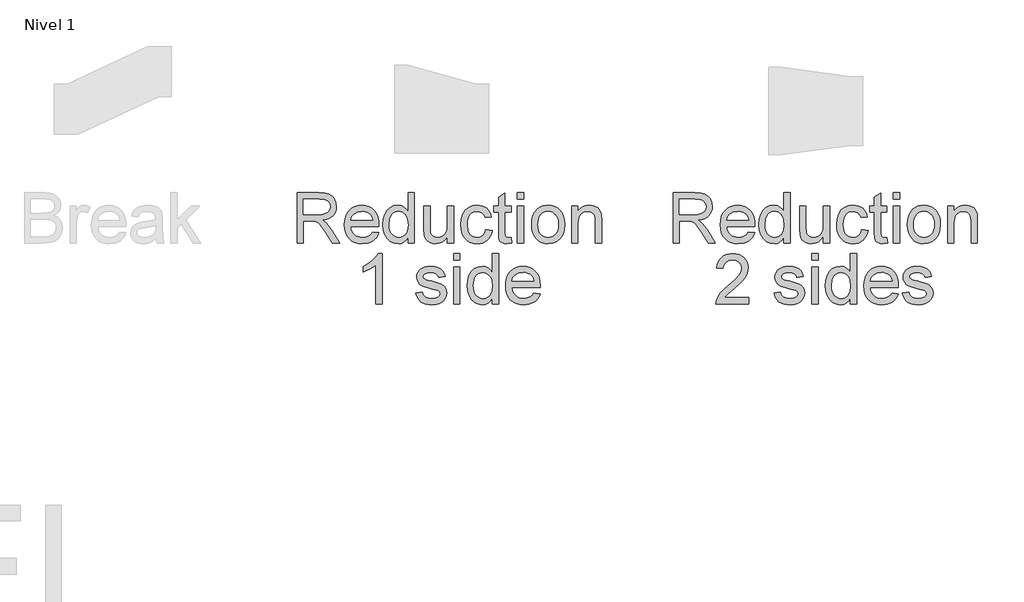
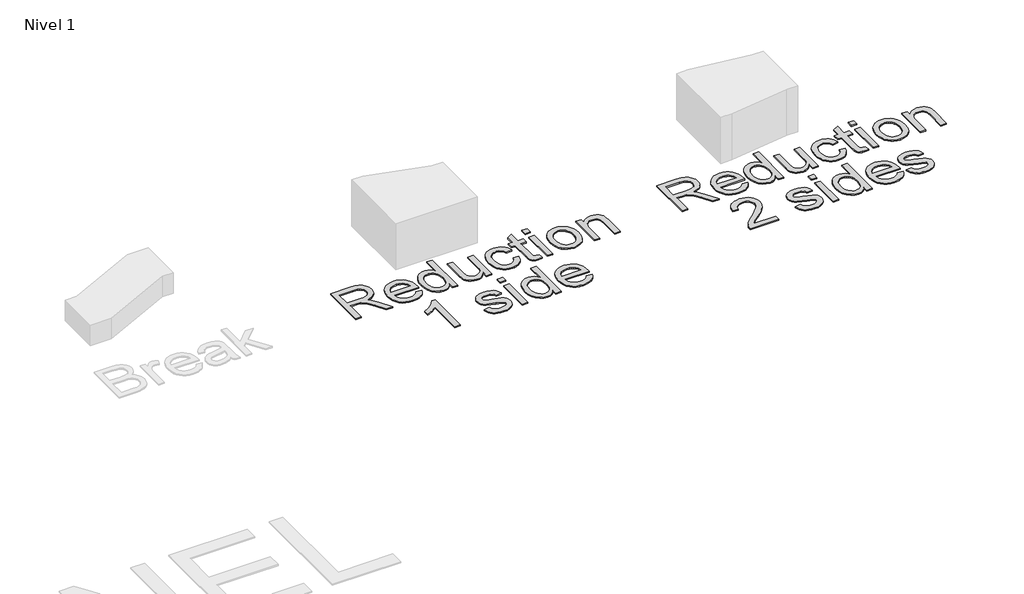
# One storey, part 6 of 7: 2 proxies.
"""IFC4 building model written with IfcOpenShell, lengths in millimetres."""

from ifc_helpers import new_model, si_unit, origin, origin_with_axes, place, context, project, spatial, polyline, outline, extrude, element, save

model = new_model("IFC4")

# Units and contexts
model_context = context("Model", 3, world=origin())
ifc_project = project(units=[si_unit("LENGTHUNIT", "METRE", prefix="MILLI")], contexts=[model_context])

# Site, building, storey
site = spatial("IfcSite", under=ifc_project)
building = spatial("IfcBuilding", under=site)
storey = spatial("IfcBuildingStorey", under=building, Name="Nivel 1", Elevation=0.0)

# Proxies
placement = place(None, origin())
element("IfcBuildingElementProxy", 1, Name="Texto de modelo 1", ObjectType="Texto de modelo 1", at=placement, inside=storey, context=model_context, shape_type="SweptSolid", body=[
    extrude(outline(polyline([(4336.6216122, -4316.3248037), (4336.6216122, -3914.4995631), (4509.7714046, -3914.4995631), (4556.308477, -3917.2096271), (4590.1658833, -3925.3398192), (4614.9120788, -3940.3494046), (4634.115519, -3963.6976486), (4646.4395658, -3992.6499616), (4650.5475814, -4024.4717542), (4648.8461272, -4045.1099341), (4643.7417645, -4064.0558569), (4635.2344934, -4081.3095224), (4623.3243138, -4096.8709308), (4607.8579416, -4110.2434414), (4588.6820926, -4120.9304133), (4565.7967668, -4128.9318467), (4539.2019642, -4134.2477415), (4567.749607, -4155.7320501), (4608.4618812, -4207.4317331), (4675.4654552, -4316.3248037), (4617.0948453, -4316.3248037), (4564.8065511, -4233.03632), (4527.0373329, -4177.9030716), (4512.9965034, -4161.8266285), (4500.5007783, -4151.8570264), (4476.6129741, -4142.2920945), (4447.4767201, -4140.5262609), (4386.8497673, -4140.5262609), (4386.8497673, -4316.3248037), (4336.6216122, -4316.3248037)]), holes=[polyline([(4386.8497673, -4090.2981059), (4499.274505, -4090.2981059), (4531.5622814, -4088.5200095), (4556.6150453, -4083.1857206), (4575.4751289, -4073.9396198), (4589.1848646, -4060.4260878), (4597.5357859, -4044.0798645), (4600.3194263, -4026.3356896), (4595.0096629, -4001.8347488), (4579.0803725, -3982.0917483), (4566.9188069, -3974.4949851), (4551.6731638, -3969.0687257), (4511.9296456, -3964.7277182), (4386.8497673, -3964.7277182), (4386.8497673, -4090.2981059)])]), origin_with_axes(), (0.0, 0.0, 1.0), 10.0),
    extrude(outline(polyline([(4938.7708619, -4228.4255323), (4988.0179983, -4234.7040517), (4980.4672204, -4254.428658), (4970.2738234, -4271.8110823), (4957.4378075, -4286.8513245), (4941.9591725, -4299.5493847), (4923.9973341, -4309.6354827), (4903.7117078, -4316.8398385), (4856.1690912, -4322.6033231), (4825.0033549, -4320.1170539), (4797.2343956, -4312.6582465), (4772.8622134, -4300.2269007), (4751.8868083, -4282.8230167), (4735.0194189, -4260.9309723), (4722.9712835, -4235.0351455), (4715.7424023, -4205.1355363), (4713.3327753, -4171.2321448), (4715.7669278, -4136.179122), (4723.0693854, -4105.2831658), (4735.2401481, -4078.5442761), (4752.2792158, -4055.962453), (4773.1994386, -4038.0220743), (4797.0136664, -4025.2075182), (4823.7218993, -4017.5187845), (4853.3241371, -4014.9558732), (4881.9729475, -4017.5126531), (4907.881037, -4025.1829927), (4931.0484057, -4037.966892), (4951.4750535, -4055.8643511), (4968.1493049, -4078.3971233), (4980.0594845, -4105.0869621), (4987.2055922, -4135.9338674), (4989.5876282, -4170.9378392), (4989.2933226, -4184.4758966), (4763.5609303, -4184.4758966), (4766.4702638, -4204.519334), (4772.2552081, -4222.0734365), (4780.9157634, -4237.1382042), (4792.4519297, -4249.7136371), (4806.2260447, -4259.6280569), (4821.6004464, -4266.7097853), (4857.1501099, -4272.375168), (4883.8828682, -4269.7509431), (4906.3972463, -4261.8782684), (4924.6932442, -4248.2666346), (4938.7708619, -4228.4255323)]), holes=[polyline([(4763.5609303, -4134.2477415), (4939.3594731, -4134.2477415), (4932.5659189, -4107.711187), (4919.2485907, -4088.728476), (4905.5511177, -4078.4277801), (4889.9651839, -4071.0701402), (4872.4907891, -4066.6555563), (4853.1279334, -4065.1840283), (4819.2705271, -4069.8806551), (4791.2747073, -4083.9705355), (4771.8137498, -4105.9330907), (4763.5609303, -4134.2477415)])]), origin_with_axes(), (0.0, 0.0, 1.0), 10.0),
    extrude(outline(polyline([(5221.8928454, -4316.3248037), (5221.8928454, -4268.9416027), (5206.8648659, -4292.4186054), (5188.6608385, -4309.187893), (5167.2807632, -4319.2494656), (5142.72464, -4322.6033231), (5110.2529226, -4317.7472807), (5080.5280574, -4303.1791537), (5055.3649289, -4279.9167489), (5036.5784217, -4248.9778731), (5024.8797742, -4211.6133251), (5020.9802251, -4169.0739038), (5024.5732059, -4127.0617799), (5035.3521484, -4089.1208835), (5053.3047897, -4057.4094555), (5078.4188673, -4034.085737), (5108.7936573, -4019.7383392), (5142.5284363, -4014.9558732), (5167.1029536, -4018.3771758), (5188.8325168, -4028.6410835), (5207.251142, -4044.3741701), (5221.8928454, -4064.2030097), (5221.8928454, -3914.4995631), (5272.1210005, -3914.4995631), (5272.1210005, -4316.3248037), (5221.8928454, -4316.3248037)]), holes=[polyline([(5071.2083802, -4168.8777), (5072.6247258, -4193.2345538), (5076.8737629, -4214.3111264), (5083.9554913, -4232.1074179), (5093.8699111, -4246.6234283), (5118.5670557, -4265.9372331), (5132.4423383, -4270.7656843), (5147.3354277, -4272.375168), (5162.2990278, -4270.8392607), (5176.091537, -4266.2315387), (5200.1632822, -4247.8006507), (5209.6699661, -4233.8916456), (5216.4604546, -4216.7391476), (5221.8928454, -4172.7036728), (5216.3623527, -4124.5601823), (5209.4492369, -4106.0250612), (5199.7708747, -4091.1810226), (5188.0691616, -4079.8073376), (5175.0859929, -4071.6832769), (5160.8213685, -4066.8088405), (5145.2752885, -4065.1840283), (5130.0878935, -4066.7444611), (5116.2126109, -4071.4257595), (5103.6494408, -4079.2279235), (5092.3983831, -4090.1509531), (5083.1277568, -4104.4339715), (5076.5058809, -4122.3161022), (5071.2083802, -4168.8777)])]), origin_with_axes(), (0.0, 0.0, 1.0), 10.0),
    extrude(outline(polyline([(5535.8188146, -4316.3248037), (5535.8188146, -4265.6061393), (5517.645444, -4290.5424072), (5496.4799666, -4308.3540271), (5472.3223822, -4319.0409991), (5445.172691, -4322.6033231), (5420.7085383, -4320.1017255), (5397.9366428, -4312.5969328), (5378.8313045, -4301.3152183), (5365.3668235, -4287.4828553), (5356.3046637, -4270.6829108), (5350.406289, -4250.498452), (5347.4632331, -4203.8019641), (5347.4632331, -4021.2343926), (5397.6913881, -4021.2343926), (5397.6913881, -4180.1594145), (5400.732546, -4231.3685883), (5408.0533977, -4248.4505756), (5420.5981737, -4261.43681), (5437.5330082, -4269.6405785), (5458.0240354, -4272.375168), (5479.6922849, -4269.5792648), (5499.9625828, -4261.1915554), (5516.6766881, -4247.9845917), (5527.6763598, -4230.7309262), (5533.7832009, -4207.1006393), (5535.8188146, -4174.763812), (5535.8188146, -4021.2343926), (5586.0469697, -4021.2343926), (5586.0469697, -4316.3248037), (5535.8188146, -4316.3248037)])), origin_with_axes(), (0.0, 0.0, 1.0), 10.0),
    extrude(outline(polyline([(5843.4662644, -4209.5899742), (5893.6944195, -4215.8684935), (5888.2313719, -4239.5692911), (5879.6903782, -4260.5416305), (5868.0714385, -4278.7855118), (5853.3745528, -4294.3009349), (5836.2189891, -4306.6832297), (5817.2240154, -4315.527726), (5796.3896318, -4320.8344238), (5773.7158381, -4322.6033231), (5745.5452744, -4320.135448), (5720.2871097, -4312.7318229), (5697.9413442, -4300.3924476), (5678.5079778, -4283.1173223), (5662.7779568, -4261.2314092), (5651.5422276, -4235.059671), (5644.80079, -4204.6021074), (5642.5536441, -4169.8587187), (5646.3918796, -4125.1610563), (5657.9065861, -4086.4230822), (5677.2817045, -4055.1408499), (5704.7011759, -4032.8104127), (5737.5039871, -4019.4195081), (5773.0291251, -4014.9558732), (5795.3135769, -4016.4887149), (5815.4704446, -4021.0872398), (5833.499728, -4028.7514481), (5849.4014273, -4039.4813396), (5862.9057622, -4053.0316597), (5873.7429526, -4069.1571539), (5881.9129986, -4087.857822), (5887.4159001, -4109.133664), (5837.1877451, -4115.4121834), (5828.0765343, -4093.4986792), (5813.888552, -4077.790118), (5795.4086131, -4068.3355507), (5773.4215326, -4065.1840283), (5756.3548737, -4066.7352641), (5740.9620778, -4071.3889713), (5727.2431451, -4079.14515), (5715.1980754, -4090.0038003), (5705.3909546, -4104.216308), (5698.3858683, -4122.0340593), (5694.1828165, -4143.4570542), (5692.7817992, -4168.4852926), (5698.2632409, -4215.5619252), (5705.1150431, -4233.4992382), (5714.7075661, -4247.7025489), (5726.5135125, -4258.4968197), (5740.0055847, -4266.2070132), (5755.1837826, -4270.8331293), (5772.0481064, -4272.375168), (5798.0573635, -4268.5246698), (5819.3822565, -4256.9731751), (5834.8946139, -4237.4263785), (5843.4662644, -4209.5899742)])), origin_with_axes(), (0.0, 0.0, 1.0), 10.0),
    extrude(outline(polyline([(6044.3788847, -4274.4353072), (6050.6574041, -4317.7963317), (6013.0843897, -4322.6033231), (5988.9758563, -4320.5186584), (5970.9986894, -4314.2646645), (5958.2944979, -4304.6261562), (5950.0048902, -4292.3879485), (5945.4431535, -4271.3696239), (5943.9225746, -4235.3907648), (5943.9225746, -4071.4625477), (5906.2514583, -4071.4625477), (5906.2514583, -4021.2343926), (5943.9225746, -4021.2343926), (5943.9225746, -3949.521929), (5994.1507297, -3919.9932676), (5994.1507297, -4021.2343926), (6044.3788847, -4021.2343926), (6044.3788847, -4071.4625477), (5994.1507297, -4071.4625477), (5994.1507297, -4233.9192368), (5996.79948, -4259.8181292), (6005.3833932, -4268.9906536), (6022.5021688, -4272.375168), (6044.3788847, -4274.4353072)])), origin_with_axes(), (0.0, 0.0, 1.0), 10.0),
    extrude(outline(polyline([(6094.6070398, -3964.7277182), (6094.6070398, -3914.4995631), (6144.8351949, -3914.4995631), (6144.8351949, -3964.7277182), (6094.6070398, -3964.7277182)])), origin_with_axes(), (0.0, 0.0, 1.0), 10.0),
    extrude(outline(polyline([(6094.6070398, -4316.3248037), (6094.6070398, -4021.2343926), (6144.8351949, -4021.2343926), (6144.8351949, -4316.3248037), (6094.6070398, -4316.3248037)])), origin_with_axes(), (0.0, 0.0, 1.0), 10.0),
    extrude(outline(polyline([(6207.6203887, -4168.7795982), (6210.3365841, -4130.5627902), (6218.4851703, -4097.6312203), (6232.0661473, -4069.9848884), (6251.0795151, -4047.6237944), (6270.2216416, -4033.3315789), (6291.3503308, -4023.1228535), (6314.4655829, -4016.9976183), (6339.5673977, -4014.9558732), (6367.278109, -4017.4421424), (6392.3339385, -4024.9009498), (6414.7348863, -4037.3322956), (6434.4809524, -4054.7361797), (6450.5972495, -4076.5239908), (6462.1088903, -4102.1071179), (6469.0158747, -4131.4855609), (6471.3182029, -4164.6593198), (6467.2469755, -4215.4025097), (6455.0332932, -4254.0301192), (6435.0327754, -4282.9579067), (6407.6010413, -4304.6016308), (6375.0189593, -4318.1029), (6339.5673977, -4322.6033231), (6311.4520162, -4320.126251), (6286.1631947, -4312.6950347), (6263.7009332, -4300.3096742), (6244.0652317, -4282.9701695), (6228.1206129, -4260.9708262), (6216.7315995, -4234.6059498), (6209.8981914, -4203.8755405), (6207.6203887, -4168.7795982)]), holes=[polyline([(6257.8485438, -4168.6814963), (6259.3016777, -4193.0444814), (6263.6610793, -4214.1394482), (6270.9267487, -4231.9663965), (6281.0986859, -4246.5253265), (6293.4717837, -4257.8346321), (6307.3409349, -4265.9127076), (6322.7061396, -4270.7595529), (6339.5673977, -4272.375168), (6356.3428166, -4270.7503559), (6371.6467076, -4265.8759194), (6385.4790707, -4257.7518587), (6397.8399057, -4246.3781737), (6408.0118429, -4231.6751566), (6415.2775123, -4213.5630997), (6419.6369139, -4192.042003), (6421.0900478, -4167.1118665), (6419.6277169, -4143.5214335), (6415.2407241, -4122.9782898), (6407.9290694, -4105.4824352), (6397.6927529, -4091.0338698), (6385.2859326, -4079.7245642), (6371.4627666, -4071.6464887), (6356.223255, -4066.7996434), (6339.5673977, -4065.1840283), (6322.7061396, -4066.793512), (6307.3409349, -4071.6219632), (6293.4717837, -4079.6693819), (6281.0986859, -4090.935768), (6270.9267487, -4105.4517784), (6263.6610793, -4123.2480699), (6259.3016777, -4144.3246425), (6257.8485438, -4168.6814963)])]), origin_with_axes(), (0.0, 0.0, 1.0), 10.0),
    extrude(outline(polyline([(6527.8248773, -4316.3248037), (6527.8248773, -4021.2343926), (6578.0530324, -4021.2343926), (6578.0530324, -4062.4371761), (6595.5029017, -4041.6641061), (6616.4599127, -4026.826199), (6640.9240654, -4017.9234547), (6668.8953597, -4014.9558732), (6693.653818, -4017.3471062), (6716.3276117, -4024.5208051), (6735.2367462, -4035.5817904), (6748.7012272, -4049.6348827), (6757.8369634, -4066.6432936), (6763.7598636, -4086.570235), (6766.4086139, -4135.1306583), (6766.4086139, -4316.3248037), (6716.1804589, -4316.3248037), (6716.1804589, -4141.899687), (6714.7334563, -4115.9272182), (6710.3924488, -4097.459542), (6702.384884, -4084.2280529), (6689.9382099, -4073.9641453), (6673.984394, -4067.3790576), (6655.4554042, -4065.1840283), (6626.0371073, -4070.1136471), (6600.959818, -4084.9025033), (6590.9380993, -4096.9751641), (6583.7797288, -4113.4746716), (6579.4847065, -4134.4010257), (6578.0530324, -4159.7542265), (6578.0530324, -4316.3248037), (6527.8248773, -4316.3248037)])), origin_with_axes(), (0.0, 0.0, 1.0), 10.0),
    extrude(outline(polyline([(5014.7017057, -4804.2240751), (4964.4735506, -4804.2240751), (4964.4735506, -4491.0829208), (4943.5042769, -4508.0422808), (4916.8941459, -4524.9771153), (4864.0172405, -4550.3364475), (4864.0172405, -4502.8551446), (4903.4664531, -4481.3953616), (4937.6426904, -4455.8643511), (4964.5839152, -4428.7146599), (4982.3280901, -4402.3988345), (5014.7017057, -4402.3988345), (5014.7017057, -4804.2240751)])), origin_with_axes(), (0.0, 0.0, 1.0), 10.0),
    extrude(outline(polyline([(5284.6780392, -4716.3248037), (5334.9061943, -4710.0462843), (5342.8279199, -4731.5305928), (5358.1563364, -4747.3249932), (5380.9895456, -4757.0370778), (5411.4256493, -4760.2744394), (5441.493871, -4757.306858), (5462.634823, -4748.4041137), (5475.1428109, -4735.5037184), (5479.3121401, -4720.5431839), (5475.1182854, -4707.7408905), (5462.5367212, -4697.9797549), (5410.8370381, -4683.6568825), (5335.2004999, -4659.0823652), (5316.0583734, -4646.7337929), (5302.1892222, -4630.3875696), (5293.7647245, -4611.0860276), (5290.9565586, -4589.8714992), (5293.2129015, -4570.4105417), (5299.9819302, -4552.4456376), (5310.6505081, -4536.6880254), (5324.6054984, -4523.8489438), (5356.5376556, -4508.9865112), (5377.4210902, -4504.3879863), (5399.7515273, -4502.8551446), (5432.443974, -4505.319954), (5460.8689895, -4512.7143821), (5483.7267241, -4524.3149277), (5499.7173281, -4539.3980895), (5510.3123296, -4559.0797762), (5516.9832564, -4584.4758966), (5466.7551014, -4590.754416), (5460.4152683, -4574.9477529), (5447.8704923, -4563.040639), (5428.9981459, -4555.5726345), (5403.6756019, -4553.0832997), (5374.8336535, -4555.4622699), (5355.6056879, -4562.5991806), (5344.7899572, -4572.8998765), (5341.1847137, -4584.7702022), (5347.1689275, -4599.3873802), (5365.9063838, -4610.4728909), (5409.1693064, -4621.1659943), (5482.8928582, -4644.8085438), (5502.3660785, -4656.1147838), (5517.1304092, -4671.5903531), (5526.4378237, -4691.2843026), (5529.5402952, -4715.2456832), (5525.8982635, -4740.0164042), (5514.9721682, -4763.3155972), (5497.1789424, -4783.316115), (5472.9355189, -4798.1908104), (5443.6521121, -4807.4246484), (5410.7389362, -4810.5025945), (5383.705741, -4809.0188037), (5360.0938482, -4804.5674316), (5339.9032581, -4797.148478), (5323.1339705, -4786.761943), (5309.4364975, -4773.4568775), (5298.4613513, -4757.2823325), (5290.2085319, -4738.2383079), (5284.6780392, -4716.3248037)])), origin_with_axes(), (0.0, 0.0, 1.0), 10.0),
    extrude(outline(polyline([(5586.0469697, -4452.6269896), (5586.0469697, -4402.3988345), (5636.2751248, -4402.3988345), (5636.2751248, -4452.6269896), (5586.0469697, -4452.6269896)])), origin_with_axes(), (0.0, 0.0, 1.0), 10.0),
    extrude(outline(polyline([(5586.0469697, -4804.2240751), (5586.0469697, -4509.133664), (5636.2751248, -4509.133664), (5636.2751248, -4804.2240751), (5586.0469697, -4804.2240751)])), origin_with_axes(), (0.0, 0.0, 1.0), 10.0),
    extrude(outline(polyline([(5893.6944195, -4804.2240751), (5893.6944195, -4756.8408741), (5878.66644, -4780.3178768), (5860.4624126, -4797.0871644), (5839.0823373, -4807.1487369), (5814.5262141, -4810.5025945), (5782.0544967, -4805.6465521), (5752.3296315, -4791.0784251), (5727.166503, -4767.8160203), (5708.3799958, -4736.8771445), (5696.6813484, -4699.5125965), (5692.7817992, -4656.9731751), (5696.37478, -4614.9610513), (5707.1537225, -4577.0201549), (5725.1063639, -4545.3087269), (5750.2204414, -4521.9850084), (5780.5952315, -4507.6376106), (5814.3300104, -4502.8551446), (5838.9045277, -4506.2764472), (5860.6340909, -4516.5403548), (5879.0527161, -4532.2734415), (5893.6944195, -4552.102281), (5893.6944195, -4402.3988345), (5943.9225746, -4402.3988345), (5943.9225746, -4804.2240751), (5893.6944195, -4804.2240751)]), holes=[polyline([(5743.0099543, -4656.7769714), (5744.4263, -4681.1338252), (5748.675337, -4702.2103978), (5755.7570654, -4720.0066893), (5765.6714852, -4734.5226997), (5790.3686298, -4753.8365045), (5804.2439124, -4758.6649557), (5819.1370018, -4760.2744394), (5834.100602, -4758.7385321), (5847.8931111, -4754.1308101), (5871.9648563, -4735.6999221), (5881.4715402, -4721.790917), (5888.2620287, -4704.638419), (5893.6944195, -4660.6029442), (5888.1639268, -4612.4594537), (5881.250811, -4593.9243325), (5871.5724489, -4579.080294), (5859.8707357, -4567.706609), (5846.887567, -4559.5825483), (5832.6229426, -4554.7081118), (5817.0768626, -4553.0832997), (5801.8894676, -4554.6437325), (5788.014185, -4559.3250309), (5775.4510149, -4567.1271949), (5764.1999572, -4578.0502244), (5754.9293309, -4592.3332429), (5748.307455, -4610.2153736), (5743.0099543, -4656.7769714)])]), origin_with_axes(), (0.0, 0.0, 1.0), 10.0),
    extrude(outline(polyline([(6225.8673357, -4716.3248037), (6275.1144721, -4722.6033231), (6267.5636942, -4742.3279294), (6257.3702972, -4759.7103537), (6244.5342813, -4774.7505959), (6229.0556463, -4787.4486561), (6211.0938079, -4797.5347541), (6190.8081815, -4804.7391099), (6143.265565, -4810.5025945), (6112.0998287, -4808.0163253), (6084.3308694, -4800.5575179), (6059.9586872, -4788.1261721), (6038.9832821, -4770.722288), (6022.1158927, -4748.8302437), (6010.0677573, -4722.9344169), (6002.8388761, -4693.0348077), (6000.429249, -4659.1314162), (6002.8634016, -4624.0783934), (6010.1658592, -4593.1824372), (6022.3366219, -4566.4435475), (6039.3756896, -4543.8617244), (6060.2959124, -4525.9213457), (6084.1101402, -4513.1067896), (6110.8183731, -4505.4180559), (6140.4206109, -4502.8551446), (6169.0694213, -4505.4119245), (6194.9775108, -4513.0822641), (6218.1448795, -4525.8661634), (6238.5715273, -4543.7636225), (6255.2457787, -4566.2963947), (6267.1559583, -4592.9862334), (6274.302066, -4623.8331387), (6276.684102, -4658.8371106), (6276.3897964, -4672.375168), (6050.6574041, -4672.375168), (6053.5667376, -4692.4186054), (6059.3516819, -4709.9727079), (6068.0122372, -4725.0374756), (6079.5484035, -4737.6129085), (6093.3225185, -4747.5273283), (6108.6969202, -4754.6090567), (6144.2465837, -4760.2744394), (6170.979342, -4757.6502145), (6193.4937201, -4749.7775398), (6211.789718, -4736.165906), (6225.8673357, -4716.3248037)]), holes=[polyline([(6050.6574041, -4622.1470129), (6226.4559469, -4622.1470129), (6219.6623927, -4595.6104583), (6206.3450645, -4576.6277474), (6192.6475915, -4566.3270515), (6177.0616577, -4558.9694116), (6159.5872629, -4554.5548277), (6140.2244072, -4553.0832997), (6106.3670009, -4557.7799265), (6078.3711811, -4571.8698069), (6058.9102235, -4593.832362), (6050.6574041, -4622.1470129)])]), origin_with_axes(), (0.0, 0.0, 1.0), 10.0),
])
element("IfcBuildingElementProxy", 2, Name="Texto de modelo 1", ObjectType="Texto de modelo 1", at=placement, inside=storey, context=model_context, shape_type="SweptSolid", body=[
    extrude(outline(polyline([(7336.6216122, -4316.3248037), (7336.6216122, -3914.4995631), (7509.7714046, -3914.4995631), (7556.308477, -3917.2096271), (7590.1658833, -3925.3398192), (7614.9120788, -3940.3494046), (7634.115519, -3963.6976486), (7646.4395658, -3992.6499616), (7650.5475814, -4024.4717542), (7648.8461272, -4045.1099341), (7643.7417645, -4064.0558569), (7635.2344934, -4081.3095224), (7623.3243138, -4096.8709308), (7607.8579416, -4110.2434414), (7588.6820926, -4120.9304133), (7565.7967668, -4128.9318467), (7539.2019642, -4134.2477415), (7567.749607, -4155.7320501), (7608.4618812, -4207.4317331), (7675.4654552, -4316.3248037), (7617.0948453, -4316.3248037), (7564.8065511, -4233.03632), (7527.0373329, -4177.9030716), (7512.9965034, -4161.8266285), (7500.5007783, -4151.8570264), (7476.6129741, -4142.2920945), (7447.4767201, -4140.5262609), (7386.8497673, -4140.5262609), (7386.8497673, -4316.3248037), (7336.6216122, -4316.3248037)]), holes=[polyline([(7386.8497673, -4090.2981059), (7499.274505, -4090.2981059), (7531.5622814, -4088.5200095), (7556.6150453, -4083.1857206), (7575.4751289, -4073.9396198), (7589.1848646, -4060.4260878), (7597.5357859, -4044.0798645), (7600.3194263, -4026.3356896), (7595.0096629, -4001.8347488), (7579.0803725, -3982.0917483), (7566.9188069, -3974.4949851), (7551.6731638, -3969.0687257), (7511.9296456, -3964.7277182), (7386.8497673, -3964.7277182), (7386.8497673, -4090.2981059)])]), origin_with_axes(), (0.0, 0.0, 1.0), 10.0),
    extrude(outline(polyline([(7938.7708619, -4228.4255323), (7988.0179983, -4234.7040517), (7980.4672204, -4254.428658), (7970.2738234, -4271.8110823), (7957.4378075, -4286.8513245), (7941.9591725, -4299.5493847), (7923.9973341, -4309.6354827), (7903.7117078, -4316.8398385), (7856.1690912, -4322.6033231), (7825.0033549, -4320.1170539), (7797.2343956, -4312.6582465), (7772.8622134, -4300.2269007), (7751.8868083, -4282.8230167), (7735.0194189, -4260.9309723), (7722.9712835, -4235.0351455), (7715.7424023, -4205.1355363), (7713.3327753, -4171.2321448), (7715.7669278, -4136.179122), (7723.0693854, -4105.2831658), (7735.2401481, -4078.5442761), (7752.2792158, -4055.962453), (7773.1994386, -4038.0220743), (7797.0136664, -4025.2075182), (7823.7218993, -4017.5187845), (7853.3241371, -4014.9558732), (7881.9729475, -4017.5126531), (7907.881037, -4025.1829927), (7931.0484057, -4037.966892), (7951.4750535, -4055.8643511), (7968.1493049, -4078.3971233), (7980.0594845, -4105.0869621), (7987.2055922, -4135.9338674), (7989.5876282, -4170.9378392), (7989.2933226, -4184.4758966), (7763.5609303, -4184.4758966), (7766.4702638, -4204.519334), (7772.2552081, -4222.0734365), (7780.9157634, -4237.1382042), (7792.4519297, -4249.7136371), (7806.2260447, -4259.6280569), (7821.6004464, -4266.7097853), (7857.1501099, -4272.375168), (7883.8828682, -4269.7509431), (7906.3972463, -4261.8782684), (7924.6932442, -4248.2666346), (7938.7708619, -4228.4255323)]), holes=[polyline([(7763.5609303, -4134.2477415), (7939.3594731, -4134.2477415), (7932.5659189, -4107.711187), (7919.2485907, -4088.728476), (7905.5511177, -4078.4277801), (7889.9651839, -4071.0701402), (7872.4907891, -4066.6555563), (7853.1279334, -4065.1840283), (7819.2705271, -4069.8806551), (7791.2747073, -4083.9705355), (7771.8137498, -4105.9330907), (7763.5609303, -4134.2477415)])]), origin_with_axes(), (0.0, 0.0, 1.0), 10.0),
    extrude(outline(polyline([(8221.8928454, -4316.3248037), (8221.8928454, -4268.9416027), (8206.8648659, -4292.4186054), (8188.6608385, -4309.187893), (8167.2807632, -4319.2494656), (8142.72464, -4322.6033231), (8110.2529226, -4317.7472807), (8080.5280574, -4303.1791537), (8055.3649289, -4279.9167489), (8036.5784217, -4248.9778731), (8024.8797742, -4211.6133251), (8020.9802251, -4169.0739038), (8024.5732059, -4127.0617799), (8035.3521484, -4089.1208835), (8053.3047897, -4057.4094555), (8078.4188673, -4034.085737), (8108.7936573, -4019.7383392), (8142.5284363, -4014.9558732), (8167.1029536, -4018.3771758), (8188.8325168, -4028.6410835), (8207.251142, -4044.3741701), (8221.8928454, -4064.2030097), (8221.8928454, -3914.4995631), (8272.1210005, -3914.4995631), (8272.1210005, -4316.3248037), (8221.8928454, -4316.3248037)]), holes=[polyline([(8071.2083802, -4168.8777), (8072.6247258, -4193.2345538), (8076.8737629, -4214.3111264), (8083.9554913, -4232.1074179), (8093.8699111, -4246.6234283), (8118.5670557, -4265.9372331), (8132.4423383, -4270.7656843), (8147.3354277, -4272.375168), (8162.2990278, -4270.8392607), (8176.091537, -4266.2315387), (8200.1632822, -4247.8006507), (8209.6699661, -4233.8916456), (8216.4604546, -4216.7391476), (8221.8928454, -4172.7036728), (8216.3623527, -4124.5601823), (8209.4492369, -4106.0250612), (8199.7708747, -4091.1810226), (8188.0691616, -4079.8073376), (8175.0859929, -4071.6832769), (8160.8213685, -4066.8088405), (8145.2752885, -4065.1840283), (8130.0878935, -4066.7444611), (8116.2126109, -4071.4257595), (8103.6494408, -4079.2279235), (8092.3983831, -4090.1509531), (8083.1277568, -4104.4339715), (8076.5058809, -4122.3161022), (8071.2083802, -4168.8777)])]), origin_with_axes(), (0.0, 0.0, 1.0), 10.0),
    extrude(outline(polyline([(8535.8188146, -4316.3248037), (8535.8188146, -4265.6061393), (8517.645444, -4290.5424072), (8496.4799666, -4308.3540271), (8472.3223822, -4319.0409991), (8445.172691, -4322.6033231), (8420.7085383, -4320.1017255), (8397.9366428, -4312.5969328), (8378.8313045, -4301.3152183), (8365.3668235, -4287.4828553), (8356.3046637, -4270.6829108), (8350.406289, -4250.498452), (8347.4632331, -4203.8019641), (8347.4632331, -4021.2343926), (8397.6913881, -4021.2343926), (8397.6913881, -4180.1594145), (8400.732546, -4231.3685883), (8408.0533977, -4248.4505756), (8420.5981737, -4261.43681), (8437.5330082, -4269.6405785), (8458.0240354, -4272.375168), (8479.6922849, -4269.5792648), (8499.9625828, -4261.1915554), (8516.6766881, -4247.9845917), (8527.6763598, -4230.7309262), (8533.7832009, -4207.1006393), (8535.8188146, -4174.763812), (8535.8188146, -4021.2343926), (8586.0469697, -4021.2343926), (8586.0469697, -4316.3248037), (8535.8188146, -4316.3248037)])), origin_with_axes(), (0.0, 0.0, 1.0), 10.0),
    extrude(outline(polyline([(8843.4662644, -4209.5899742), (8893.6944195, -4215.8684935), (8888.2313719, -4239.5692911), (8879.6903782, -4260.5416305), (8868.0714385, -4278.7855118), (8853.3745528, -4294.3009349), (8836.2189891, -4306.6832297), (8817.2240154, -4315.527726), (8796.3896318, -4320.8344238), (8773.7158381, -4322.6033231), (8745.5452744, -4320.135448), (8720.2871097, -4312.7318229), (8697.9413442, -4300.3924476), (8678.5079778, -4283.1173223), (8662.7779568, -4261.2314092), (8651.5422276, -4235.059671), (8644.80079, -4204.6021074), (8642.5536441, -4169.8587187), (8646.3918796, -4125.1610563), (8657.9065861, -4086.4230822), (8677.2817045, -4055.1408499), (8704.7011759, -4032.8104127), (8737.5039871, -4019.4195081), (8773.0291251, -4014.9558732), (8795.3135769, -4016.4887149), (8815.4704446, -4021.0872398), (8833.499728, -4028.7514481), (8849.4014273, -4039.4813396), (8862.9057622, -4053.0316597), (8873.7429526, -4069.1571539), (8881.9129986, -4087.857822), (8887.4159001, -4109.133664), (8837.1877451, -4115.4121834), (8828.0765343, -4093.4986792), (8813.888552, -4077.790118), (8795.4086131, -4068.3355507), (8773.4215326, -4065.1840283), (8756.3548737, -4066.7352641), (8740.9620778, -4071.3889713), (8727.2431451, -4079.14515), (8715.1980754, -4090.0038003), (8705.3909546, -4104.216308), (8698.3858683, -4122.0340593), (8694.1828165, -4143.4570542), (8692.7817992, -4168.4852926), (8698.2632409, -4215.5619252), (8705.1150431, -4233.4992382), (8714.7075661, -4247.7025489), (8726.5135125, -4258.4968197), (8740.0055847, -4266.2070132), (8755.1837826, -4270.8331293), (8772.0481064, -4272.375168), (8798.0573635, -4268.5246698), (8819.3822565, -4256.9731751), (8834.8946139, -4237.4263785), (8843.4662644, -4209.5899742)])), origin_with_axes(), (0.0, 0.0, 1.0), 10.0),
    extrude(outline(polyline([(9044.3788847, -4274.4353072), (9050.6574041, -4317.7963317), (9013.0843897, -4322.6033231), (8988.9758563, -4320.5186584), (8970.9986894, -4314.2646645), (8958.2944979, -4304.6261562), (8950.0048902, -4292.3879485), (8945.4431535, -4271.3696239), (8943.9225746, -4235.3907648), (8943.9225746, -4071.4625477), (8906.2514583, -4071.4625477), (8906.2514583, -4021.2343926), (8943.9225746, -4021.2343926), (8943.9225746, -3949.521929), (8994.1507297, -3919.9932676), (8994.1507297, -4021.2343926), (9044.3788847, -4021.2343926), (9044.3788847, -4071.4625477), (8994.1507297, -4071.4625477), (8994.1507297, -4233.9192368), (8996.79948, -4259.8181292), (9005.3833932, -4268.9906536), (9022.5021688, -4272.375168), (9044.3788847, -4274.4353072)])), origin_with_axes(), (0.0, 0.0, 1.0), 10.0),
    extrude(outline(polyline([(9094.6070398, -3964.7277182), (9094.6070398, -3914.4995631), (9144.8351949, -3914.4995631), (9144.8351949, -3964.7277182), (9094.6070398, -3964.7277182)])), origin_with_axes(), (0.0, 0.0, 1.0), 10.0),
    extrude(outline(polyline([(9094.6070398, -4316.3248037), (9094.6070398, -4021.2343926), (9144.8351949, -4021.2343926), (9144.8351949, -4316.3248037), (9094.6070398, -4316.3248037)])), origin_with_axes(), (0.0, 0.0, 1.0), 10.0),
    extrude(outline(polyline([(9207.6203887, -4168.7795982), (9210.3365841, -4130.5627902), (9218.4851703, -4097.6312203), (9232.0661473, -4069.9848884), (9251.0795151, -4047.6237944), (9270.2216416, -4033.3315789), (9291.3503308, -4023.1228535), (9314.4655829, -4016.9976183), (9339.5673977, -4014.9558732), (9367.278109, -4017.4421424), (9392.3339385, -4024.9009498), (9414.7348863, -4037.3322956), (9434.4809524, -4054.7361797), (9450.5972495, -4076.5239908), (9462.1088903, -4102.1071179), (9469.0158747, -4131.4855609), (9471.3182029, -4164.6593198), (9467.2469755, -4215.4025097), (9455.0332932, -4254.0301192), (9435.0327754, -4282.9579067), (9407.6010413, -4304.6016308), (9375.0189593, -4318.1029), (9339.5673977, -4322.6033231), (9311.4520162, -4320.126251), (9286.1631947, -4312.6950347), (9263.7009332, -4300.3096742), (9244.0652317, -4282.9701695), (9228.1206129, -4260.9708262), (9216.7315995, -4234.6059498), (9209.8981914, -4203.8755405), (9207.6203887, -4168.7795982)]), holes=[polyline([(9257.8485438, -4168.6814963), (9259.3016777, -4193.0444814), (9263.6610793, -4214.1394482), (9270.9267487, -4231.9663965), (9281.0986859, -4246.5253265), (9293.4717837, -4257.8346321), (9307.3409349, -4265.9127076), (9322.7061396, -4270.7595529), (9339.5673977, -4272.375168), (9356.3428166, -4270.7503559), (9371.6467076, -4265.8759194), (9385.4790707, -4257.7518587), (9397.8399057, -4246.3781737), (9408.0118429, -4231.6751566), (9415.2775123, -4213.5630997), (9419.6369139, -4192.042003), (9421.0900478, -4167.1118665), (9419.6277169, -4143.5214335), (9415.2407241, -4122.9782898), (9407.9290694, -4105.4824352), (9397.6927529, -4091.0338698), (9385.2859326, -4079.7245642), (9371.4627666, -4071.6464887), (9356.223255, -4066.7996434), (9339.5673977, -4065.1840283), (9322.7061396, -4066.793512), (9307.3409349, -4071.6219632), (9293.4717837, -4079.6693819), (9281.0986859, -4090.935768), (9270.9267487, -4105.4517784), (9263.6610793, -4123.2480699), (9259.3016777, -4144.3246425), (9257.8485438, -4168.6814963)])]), origin_with_axes(), (0.0, 0.0, 1.0), 10.0),
    extrude(outline(polyline([(9527.8248773, -4316.3248037), (9527.8248773, -4021.2343926), (9578.0530324, -4021.2343926), (9578.0530324, -4062.4371761), (9595.5029017, -4041.6641061), (9616.4599127, -4026.826199), (9640.9240654, -4017.9234547), (9668.8953597, -4014.9558732), (9693.653818, -4017.3471062), (9716.3276117, -4024.5208051), (9735.2367462, -4035.5817904), (9748.7012272, -4049.6348827), (9757.8369634, -4066.6432936), (9763.7598636, -4086.570235), (9766.4086139, -4135.1306583), (9766.4086139, -4316.3248037), (9716.1804589, -4316.3248037), (9716.1804589, -4141.899687), (9714.7334563, -4115.9272182), (9710.3924488, -4097.459542), (9702.384884, -4084.2280529), (9689.9382099, -4073.9641453), (9673.984394, -4067.3790576), (9655.4554042, -4065.1840283), (9626.0371073, -4070.1136471), (9600.959818, -4084.9025033), (9590.9380993, -4096.9751641), (9583.7797288, -4113.4746716), (9579.4847065, -4134.4010257), (9578.0530324, -4159.7542265), (9578.0530324, -4316.3248037), (9527.8248773, -4316.3248037)])), origin_with_axes(), (0.0, 0.0, 1.0), 10.0),
    extrude(outline(polyline([(7942.4987328, -4753.99592), (7942.4987328, -4804.2240751), (7678.8009186, -4804.2240751), (7679.9045646, -4786.5412138), (7684.1965212, -4769.5941166), (7696.5818817, -4742.5302645), (7714.7062014, -4716.2757528), (7740.9239249, -4688.7949677), (7777.5894971, -4658.0522957), (7831.7907777, -4609.9088052), (7864.3115461, -4574.3714045), (7880.5719303, -4545.5294561), (7885.9920583, -4517.4723226), (7880.8784986, -4492.3214568), (7865.5378194, -4471.4134968), (7841.9565835, -4457.3236164), (7812.1213537, -4452.6269896), (7780.7900704, -4457.2132518), (7756.4485451, -4470.9720384), (7740.7399839, -4492.8242289), (7735.3075931, -4521.6907028), (7685.079438, -4515.4121834), (7689.3989858, -4489.4826341), (7697.2563321, -4466.8272346), (7708.6514769, -4447.4459848), (7723.5844202, -4431.3388848), (7741.7118055, -4418.6776128), (7762.6902763, -4409.633847), (7786.5198325, -4404.2075876), (7813.2004742, -4402.3988345), (7840.1202392, -4404.4099227), (7864.0785541, -4410.4431874), (7885.075419, -4420.4986286), (7903.1108338, -4434.5762463), (7917.5961874, -4451.6337082), (7927.9428685, -4470.6286818), (7934.1508772, -4491.5611674), (7936.2202134, -4514.4311647), (7933.988396, -4538.453859), (7927.2929436, -4562.0596204), (7915.4103552, -4586.0700519), (7897.6171294, -4611.3067568), (7869.2534275, -4641.4362922), (7825.6594111, -4680.1252154), (7767.8774124, -4728.4403841), (7745.2158815, -4753.99592), (7942.4987328, -4753.99592)])), origin_with_axes(), (0.0, 0.0, 1.0), 10.0),
    extrude(outline(polyline([(8143.4113531, -4716.3248037), (8193.6395082, -4710.0462843), (8201.5612338, -4731.5305928), (8216.8896502, -4747.3249932), (8239.7228594, -4757.0370778), (8270.1589632, -4760.2744394), (8300.2271849, -4757.306858), (8321.3681369, -4748.4041137), (8333.8761247, -4735.5037184), (8338.045454, -4720.5431839), (8333.8515992, -4707.7408905), (8321.270035, -4697.9797549), (8269.570352, -4683.6568825), (8193.9338138, -4659.0823652), (8174.7916873, -4646.7337929), (8160.922536, -4630.3875696), (8152.4980384, -4611.0860276), (8149.6898725, -4589.8714992), (8151.9462154, -4570.4105417), (8158.7152441, -4552.4456376), (8169.3838219, -4536.6880254), (8183.3388123, -4523.8489438), (8215.2709695, -4508.9865112), (8236.1544041, -4504.3879863), (8258.4848412, -4502.8551446), (8291.1772878, -4505.319954), (8319.6023033, -4512.7143821), (8342.4600379, -4524.3149277), (8358.450642, -4539.3980895), (8369.0456435, -4559.0797762), (8375.7165703, -4584.4758966), (8325.4884152, -4590.754416), (8319.1485822, -4574.9477529), (8306.6038061, -4563.040639), (8287.7314598, -4555.5726345), (8262.4089158, -4553.0832997), (8233.5669674, -4555.4622699), (8214.3390017, -4562.5991806), (8203.5232711, -4572.8998765), (8199.9180275, -4584.7702022), (8205.9022413, -4599.3873802), (8224.6396976, -4610.4728909), (8267.9026202, -4621.1659943), (8341.6261721, -4644.8085438), (8361.0993924, -4656.1147838), (8375.8637231, -4671.5903531), (8385.1711376, -4691.2843026), (8388.2736091, -4715.2456832), (8384.6315773, -4740.0164042), (8373.7054821, -4763.3155972), (8355.9122562, -4783.316115), (8331.6688327, -4798.1908104), (8302.3854259, -4807.4246484), (8269.4722501, -4810.5025945), (8242.4390548, -4809.0188037), (8218.8271621, -4804.5674316), (8198.6365719, -4797.148478), (8181.8672843, -4786.761943), (8168.1698114, -4773.4568775), (8157.1946652, -4757.2823325), (8148.9418457, -4738.2383079), (8143.4113531, -4716.3248037)])), origin_with_axes(), (0.0, 0.0, 1.0), 10.0),
    extrude(outline(polyline([(8444.7802835, -4452.6269896), (8444.7802835, -4402.3988345), (8495.0084386, -4402.3988345), (8495.0084386, -4452.6269896), (8444.7802835, -4452.6269896)])), origin_with_axes(), (0.0, 0.0, 1.0), 10.0),
    extrude(outline(polyline([(8444.7802835, -4804.2240751), (8444.7802835, -4509.133664), (8495.0084386, -4509.133664), (8495.0084386, -4804.2240751), (8444.7802835, -4804.2240751)])), origin_with_axes(), (0.0, 0.0, 1.0), 10.0),
    extrude(outline(polyline([(8752.4277334, -4804.2240751), (8752.4277334, -4756.8408741), (8737.3997539, -4780.3178768), (8719.1957265, -4797.0871644), (8697.8156512, -4807.1487369), (8673.259528, -4810.5025945), (8640.7878106, -4805.6465521), (8611.0629453, -4791.0784251), (8585.8998169, -4767.8160203), (8567.1133097, -4736.8771445), (8555.4146622, -4699.5125965), (8551.5151131, -4656.9731751), (8555.1080939, -4614.9610513), (8565.8870363, -4577.0201549), (8583.8396777, -4545.3087269), (8608.9537552, -4521.9850084), (8639.3285453, -4507.6376106), (8673.0633243, -4502.8551446), (8697.6378415, -4506.2764472), (8719.3674047, -4516.5403548), (8737.78603, -4532.2734415), (8752.4277334, -4552.102281), (8752.4277334, -4402.3988345), (8802.6558884, -4402.3988345), (8802.6558884, -4804.2240751), (8752.4277334, -4804.2240751)]), holes=[polyline([(8601.7432681, -4656.7769714), (8603.1596138, -4681.1338252), (8607.4086509, -4702.2103978), (8614.4903793, -4720.0066893), (8624.404799, -4734.5226997), (8649.1019436, -4753.8365045), (8662.9772262, -4758.6649557), (8677.8703157, -4760.2744394), (8692.8339158, -4758.7385321), (8706.626425, -4754.1308101), (8730.6981702, -4735.6999221), (8740.2048541, -4721.790917), (8746.9953426, -4704.638419), (8752.4277334, -4660.6029442), (8746.8972407, -4612.4594537), (8739.9841249, -4593.9243325), (8730.3057627, -4579.080294), (8718.6040496, -4567.706609), (8705.6208808, -4559.5825483), (8691.3562565, -4554.7081118), (8675.8101765, -4553.0832997), (8660.6227815, -4554.6437325), (8646.7474989, -4559.3250309), (8634.1843287, -4567.1271949), (8622.9332711, -4578.0502244), (8613.6626448, -4592.3332429), (8607.0407689, -4610.2153736), (8601.7432681, -4656.7769714)])]), origin_with_axes(), (0.0, 0.0, 1.0), 10.0),
    extrude(outline(polyline([(9084.6006495, -4716.3248037), (9133.847786, -4722.6033231), (9126.297008, -4742.3279294), (9116.1036111, -4759.7103537), (9103.2675951, -4774.7505959), (9087.7889602, -4787.4486561), (9069.8271218, -4797.5347541), (9049.5414954, -4804.7391099), (9001.9988789, -4810.5025945), (8970.8331425, -4808.0163253), (8943.0641833, -4800.5575179), (8918.6920011, -4788.1261721), (8897.716596, -4770.722288), (8880.8492065, -4748.8302437), (8868.8010712, -4722.9344169), (8861.57219, -4693.0348077), (8859.1625629, -4659.1314162), (8861.5967154, -4624.0783934), (8868.899173, -4593.1824372), (8881.0699357, -4566.4435475), (8898.1090035, -4543.8617244), (8919.0292262, -4525.9213457), (8942.8434541, -4513.1067896), (8969.5516869, -4505.4180559), (8999.1539248, -4502.8551446), (9027.8027352, -4505.4119245), (9053.7108247, -4513.0822641), (9076.8781933, -4525.8661634), (9097.3048411, -4543.7636225), (9113.9790925, -4566.2963947), (9125.8892721, -4592.9862334), (9133.0353799, -4623.8331387), (9135.4174158, -4658.8371106), (9135.1231102, -4672.375168), (8909.390718, -4672.375168), (8912.3000514, -4692.4186054), (8918.0849958, -4709.9727079), (8926.7455511, -4725.0374756), (8938.2817173, -4737.6129085), (8952.0558324, -4747.5273283), (8967.4302341, -4754.6090567), (9002.9798975, -4760.2744394), (9029.7126559, -4757.6502145), (9052.227034, -4749.7775398), (9070.5230319, -4736.165906), (9084.6006495, -4716.3248037)]), holes=[polyline([(8909.390718, -4622.1470129), (9085.1892607, -4622.1470129), (9078.3957066, -4595.6104583), (9065.0783783, -4576.6277474), (9051.3809054, -4566.3270515), (9035.7949715, -4558.9694116), (9018.3205767, -4554.5548277), (8998.9577211, -4553.0832997), (8965.1003148, -4557.7799265), (8937.1044949, -4571.8698069), (8917.6435374, -4593.832362), (8909.390718, -4622.1470129)])]), origin_with_axes(), (0.0, 0.0, 1.0), 10.0),
    extrude(outline(polyline([(9166.8100127, -4716.3248037), (9217.0381678, -4710.0462843), (9224.9598934, -4731.5305928), (9240.2883099, -4747.3249932), (9263.1215191, -4757.0370778), (9293.5576228, -4760.2744394), (9323.6258445, -4757.306858), (9344.7667965, -4748.4041137), (9357.2747844, -4735.5037184), (9361.4441136, -4720.5431839), (9357.2502589, -4707.7408905), (9344.6686947, -4697.9797549), (9292.9690116, -4683.6568825), (9217.3324734, -4659.0823652), (9198.1903469, -4646.7337929), (9184.3211957, -4630.3875696), (9175.896698, -4611.0860276), (9173.0885321, -4589.8714992), (9175.344875, -4570.4105417), (9182.1139037, -4552.4456376), (9192.7824816, -4536.6880254), (9206.7374719, -4523.8489438), (9238.6696291, -4508.9865112), (9259.5530637, -4504.3879863), (9281.8835008, -4502.8551446), (9314.5759475, -4505.319954), (9343.000963, -4512.7143821), (9365.8586976, -4524.3149277), (9381.8493016, -4539.3980895), (9392.4443031, -4559.0797762), (9399.1152299, -4584.4758966), (9348.8870749, -4590.754416), (9342.5472418, -4574.9477529), (9330.0024658, -4563.040639), (9311.1301194, -4555.5726345), (9285.8075754, -4553.0832997), (9256.965627, -4555.4622699), (9237.7376614, -4562.5991806), (9226.9219307, -4572.8998765), (9223.3166872, -4584.7702022), (9229.300901, -4599.3873802), (9248.0383573, -4610.4728909), (9291.3012799, -4621.1659943), (9365.0248317, -4644.8085438), (9384.498052, -4656.1147838), (9399.2623827, -4671.5903531), (9408.5697972, -4691.2843026), (9411.6722687, -4715.2456832), (9408.030237, -4740.0164042), (9397.1041417, -4763.3155972), (9379.3109159, -4783.316115), (9355.0674924, -4798.1908104), (9325.7840856, -4807.4246484), (9292.8709097, -4810.5025945), (9265.8377145, -4809.0188037), (9242.2258217, -4804.5674316), (9222.0352316, -4797.148478), (9205.265944, -4786.761943), (9191.568471, -4773.4568775), (9180.5933248, -4757.2823325), (9172.3405054, -4738.2383079), (9166.8100127, -4716.3248037)])), origin_with_axes(), (0.0, 0.0, 1.0), 10.0),
])

save(model, "model.ifc")
